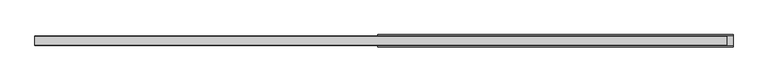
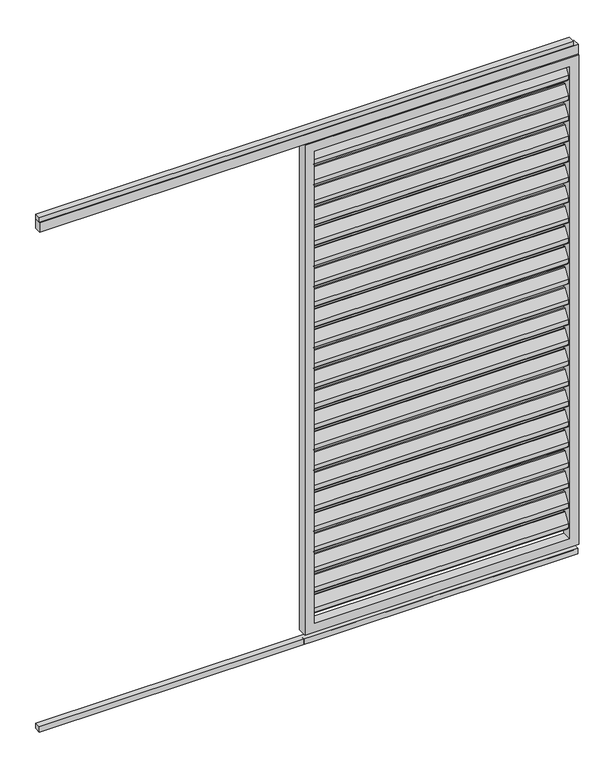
"""IFC4 building model written with IfcOpenShell, lengths in millimetres: proxy geometry, Renson_Algarve_Loggia_Paro_Aluminium : Renson_Algarve_Loggia_Paro_Aluminium."""

from ifc_helpers import new_model, si_unit, point, frame, frame_2d, origin, origin_with_axes, place, context, project, spatial, polyline, circle_curve, trimmed, segment, composite_curve, outline, extrude, source, transform, mapped, element, save


def generic_models_12cfa856(model_context):
    return source(origin(), model_context, "Body", "SweptSolid", [
        extrude(outline(composite_curve([segment(trimmed(circle_curve(frame_2d((12.6675921, 2162.6587719)), 3.0), [point((10.1515804, 2164.292689))], [point((15.6675921, 2162.6587719))], False, "CARTESIAN"), True, "CONTINUOUS"), segment(polyline([(15.6675921, 2162.6587719), (15.6675921, 2144.2979873)]), True, "CONTINUOUS"), segment(trimmed(circle_curve(frame_2d((12.6675921, 2144.2979873)), 3.0), [point((15.6675921, 2144.2979873))], [point((15.1836038, 2142.6640702))], False, "CARTESIAN"), True, "CONTINUOUS"), segment(polyline([(15.1836038, 2142.6640702), (-8.8163962, 2105.707311)]), True, "CONTINUOUS"), segment(trimmed(circle_curve(frame_2d((-11.3324079, 2107.3412281)), 3.0), [point((-8.8163962, 2105.707311))], [point((-14.3324079, 2107.3412281))], False, "CARTESIAN"), True, "CONTINUOUS"), segment(polyline([(-14.3324079, 2107.3412281), (-14.3324079, 2126.5906532), (10.1515804, 2164.292689)]), True, "CONTINUOUS")], self_intersect=False)), frame((-532.5, 0.0, 0.0), z_axis=(1.0, 0.0, 0.0), x_axis=(0.0, 1.0, 0.0)), (0.0, 0.0, 1.0), 1065.0),
        extrude(outline(composite_curve([segment(trimmed(circle_curve(frame_2d((12.6675921, 2072.6587719)), 3.0), [point((10.1515804, 2074.292689))], [point((15.6675921, 2072.6587719))], False, "CARTESIAN"), True, "CONTINUOUS"), segment(polyline([(15.6675921, 2072.6587719), (15.6675921, 2054.2979873)]), True, "CONTINUOUS"), segment(trimmed(circle_curve(frame_2d((12.6675921, 2054.2979873)), 3.0), [point((15.6675921, 2054.2979873))], [point((15.1836038, 2052.6640702))], False, "CARTESIAN"), True, "CONTINUOUS"), segment(polyline([(15.1836038, 2052.6640702), (-8.8163962, 2015.707311)]), True, "CONTINUOUS"), segment(trimmed(circle_curve(frame_2d((-11.3324079, 2017.3412281)), 3.0), [point((-8.8163962, 2015.707311))], [point((-14.3324079, 2017.3412281))], False, "CARTESIAN"), True, "CONTINUOUS"), segment(polyline([(-14.3324079, 2017.3412281), (-14.3324079, 2036.5906532), (10.1515804, 2074.292689)]), True, "CONTINUOUS")], self_intersect=False)), frame((-532.5, 0.0, 0.0), z_axis=(1.0, 0.0, 0.0), x_axis=(0.0, 1.0, 0.0)), (0.0, 0.0, 1.0), 1065.0),
        extrude(outline(composite_curve([segment(trimmed(circle_curve(frame_2d((12.6675921, 1982.6587719)), 3.0), [point((10.1515804, 1984.292689))], [point((15.6675921, 1982.6587719))], False, "CARTESIAN"), True, "CONTINUOUS"), segment(polyline([(15.6675921, 1982.6587719), (15.6675921, 1964.2979873)]), True, "CONTINUOUS"), segment(trimmed(circle_curve(frame_2d((12.6675921, 1964.2979873)), 3.0), [point((15.6675921, 1964.2979873))], [point((15.1836038, 1962.6640702))], False, "CARTESIAN"), True, "CONTINUOUS"), segment(polyline([(15.1836038, 1962.6640702), (-8.8163962, 1925.707311)]), True, "CONTINUOUS"), segment(trimmed(circle_curve(frame_2d((-11.3324079, 1927.3412281)), 3.0), [point((-8.8163962, 1925.707311))], [point((-14.3324079, 1927.3412281))], False, "CARTESIAN"), True, "CONTINUOUS"), segment(polyline([(-14.3324079, 1927.3412281), (-14.3324079, 1946.5906532), (10.1515804, 1984.292689)]), True, "CONTINUOUS")], self_intersect=False)), frame((-532.5, 0.0, 0.0), z_axis=(1.0, 0.0, 0.0), x_axis=(0.0, 1.0, 0.0)), (0.0, 0.0, 1.0), 1065.0),
        extrude(outline(composite_curve([segment(trimmed(circle_curve(frame_2d((12.6675921, 1892.6587719)), 3.0), [point((10.1515804, 1894.292689))], [point((15.6675921, 1892.6587719))], False, "CARTESIAN"), True, "CONTINUOUS"), segment(polyline([(15.6675921, 1892.6587719), (15.6675921, 1874.2979873)]), True, "CONTINUOUS"), segment(trimmed(circle_curve(frame_2d((12.6675921, 1874.2979873)), 3.0), [point((15.6675921, 1874.2979873))], [point((15.1836038, 1872.6640702))], False, "CARTESIAN"), True, "CONTINUOUS"), segment(polyline([(15.1836038, 1872.6640702), (-8.8163962, 1835.707311)]), True, "CONTINUOUS"), segment(trimmed(circle_curve(frame_2d((-11.3324079, 1837.3412281)), 3.0), [point((-8.8163962, 1835.707311))], [point((-14.3324079, 1837.3412281))], False, "CARTESIAN"), True, "CONTINUOUS"), segment(polyline([(-14.3324079, 1837.3412281), (-14.3324079, 1856.5906532), (10.1515804, 1894.292689)]), True, "CONTINUOUS")], self_intersect=False)), frame((-532.5, 0.0, 0.0), z_axis=(1.0, 0.0, 0.0), x_axis=(0.0, 1.0, 0.0)), (0.0, 0.0, 1.0), 1065.0),
        extrude(outline(composite_curve([segment(trimmed(circle_curve(frame_2d((12.6675921, 1802.6587719)), 3.0), [point((10.1515804, 1804.292689))], [point((15.6675921, 1802.6587719))], False, "CARTESIAN"), True, "CONTINUOUS"), segment(polyline([(15.6675921, 1802.6587719), (15.6675921, 1784.2979873)]), True, "CONTINUOUS"), segment(trimmed(circle_curve(frame_2d((12.6675921, 1784.2979873)), 3.0), [point((15.6675921, 1784.2979873))], [point((15.1836038, 1782.6640702))], False, "CARTESIAN"), True, "CONTINUOUS"), segment(polyline([(15.1836038, 1782.6640702), (-8.8163962, 1745.707311)]), True, "CONTINUOUS"), segment(trimmed(circle_curve(frame_2d((-11.3324079, 1747.3412281)), 3.0), [point((-8.8163962, 1745.707311))], [point((-14.3324079, 1747.3412281))], False, "CARTESIAN"), True, "CONTINUOUS"), segment(polyline([(-14.3324079, 1747.3412281), (-14.3324079, 1766.5906532), (10.1515804, 1804.292689)]), True, "CONTINUOUS")], self_intersect=False)), frame((-532.5, 0.0, 0.0), z_axis=(1.0, 0.0, 0.0), x_axis=(0.0, 1.0, 0.0)), (0.0, 0.0, 1.0), 1065.0),
        extrude(outline(composite_curve([segment(trimmed(circle_curve(frame_2d((12.6675921, 1712.6587719)), 3.0), [point((10.1515804, 1714.292689))], [point((15.6675921, 1712.6587719))], False, "CARTESIAN"), True, "CONTINUOUS"), segment(polyline([(15.6675921, 1712.6587719), (15.6675921, 1694.2979873)]), True, "CONTINUOUS"), segment(trimmed(circle_curve(frame_2d((12.6675921, 1694.2979873)), 3.0), [point((15.6675921, 1694.2979873))], [point((15.1836038, 1692.6640702))], False, "CARTESIAN"), True, "CONTINUOUS"), segment(polyline([(15.1836038, 1692.6640702), (-8.8163962, 1655.707311)]), True, "CONTINUOUS"), segment(trimmed(circle_curve(frame_2d((-11.3324079, 1657.3412281)), 3.0), [point((-8.8163962, 1655.707311))], [point((-14.3324079, 1657.3412281))], False, "CARTESIAN"), True, "CONTINUOUS"), segment(polyline([(-14.3324079, 1657.3412281), (-14.3324079, 1676.5906532), (10.1515804, 1714.292689)]), True, "CONTINUOUS")], self_intersect=False)), frame((-532.5, 0.0, 0.0), z_axis=(1.0, 0.0, 0.0), x_axis=(0.0, 1.0, 0.0)), (0.0, 0.0, 1.0), 1065.0),
        extrude(outline(composite_curve([segment(trimmed(circle_curve(frame_2d((12.6675921, 1622.6587719)), 3.0), [point((10.1515804, 1624.292689))], [point((15.6675921, 1622.6587719))], False, "CARTESIAN"), True, "CONTINUOUS"), segment(polyline([(15.6675921, 1622.6587719), (15.6675921, 1604.2979873)]), True, "CONTINUOUS"), segment(trimmed(circle_curve(frame_2d((12.6675921, 1604.2979873)), 3.0), [point((15.6675921, 1604.2979873))], [point((15.1836038, 1602.6640702))], False, "CARTESIAN"), True, "CONTINUOUS"), segment(polyline([(15.1836038, 1602.6640702), (-8.8163962, 1565.707311)]), True, "CONTINUOUS"), segment(trimmed(circle_curve(frame_2d((-11.3324079, 1567.3412281)), 3.0), [point((-8.8163962, 1565.707311))], [point((-14.3324079, 1567.3412281))], False, "CARTESIAN"), True, "CONTINUOUS"), segment(polyline([(-14.3324079, 1567.3412281), (-14.3324079, 1586.5906532), (10.1515804, 1624.292689)]), True, "CONTINUOUS")], self_intersect=False)), frame((-532.5, 0.0, 0.0), z_axis=(1.0, 0.0, 0.0), x_axis=(0.0, 1.0, 0.0)), (0.0, 0.0, 1.0), 1065.0),
        extrude(outline(composite_curve([segment(trimmed(circle_curve(frame_2d((12.6675921, 1532.6587719)), 3.0), [point((10.1515804, 1534.292689))], [point((15.6675921, 1532.6587719))], False, "CARTESIAN"), True, "CONTINUOUS"), segment(polyline([(15.6675921, 1532.6587719), (15.6675921, 1514.2979873)]), True, "CONTINUOUS"), segment(trimmed(circle_curve(frame_2d((12.6675921, 1514.2979873)), 3.0), [point((15.6675921, 1514.2979873))], [point((15.1836038, 1512.6640702))], False, "CARTESIAN"), True, "CONTINUOUS"), segment(polyline([(15.1836038, 1512.6640702), (-8.8163962, 1475.707311)]), True, "CONTINUOUS"), segment(trimmed(circle_curve(frame_2d((-11.3324079, 1477.3412281)), 3.0), [point((-8.8163962, 1475.707311))], [point((-14.3324079, 1477.3412281))], False, "CARTESIAN"), True, "CONTINUOUS"), segment(polyline([(-14.3324079, 1477.3412281), (-14.3324079, 1496.5906532), (10.1515804, 1534.292689)]), True, "CONTINUOUS")], self_intersect=False)), frame((-532.5, 0.0, 0.0), z_axis=(1.0, 0.0, 0.0), x_axis=(0.0, 1.0, 0.0)), (0.0, 0.0, 1.0), 1065.0),
        extrude(outline(composite_curve([segment(trimmed(circle_curve(frame_2d((12.6675921, 1442.6587719)), 3.0), [point((10.1515804, 1444.292689))], [point((15.6675921, 1442.6587719))], False, "CARTESIAN"), True, "CONTINUOUS"), segment(polyline([(15.6675921, 1442.6587719), (15.6675921, 1424.2979873)]), True, "CONTINUOUS"), segment(trimmed(circle_curve(frame_2d((12.6675921, 1424.2979873)), 3.0), [point((15.6675921, 1424.2979873))], [point((15.1836038, 1422.6640702))], False, "CARTESIAN"), True, "CONTINUOUS"), segment(polyline([(15.1836038, 1422.6640702), (-8.8163962, 1385.707311)]), True, "CONTINUOUS"), segment(trimmed(circle_curve(frame_2d((-11.3324079, 1387.3412281)), 3.0), [point((-8.8163962, 1385.707311))], [point((-14.3324079, 1387.3412281))], False, "CARTESIAN"), True, "CONTINUOUS"), segment(polyline([(-14.3324079, 1387.3412281), (-14.3324079, 1406.5906532), (10.1515804, 1444.292689)]), True, "CONTINUOUS")], self_intersect=False)), frame((-532.5, 0.0, 0.0), z_axis=(1.0, 0.0, 0.0), x_axis=(0.0, 1.0, 0.0)), (0.0, 0.0, 1.0), 1065.0),
        extrude(outline(composite_curve([segment(trimmed(circle_curve(frame_2d((12.6675921, 1352.6587719)), 3.0), [point((10.1515804, 1354.292689))], [point((15.6675921, 1352.6587719))], False, "CARTESIAN"), True, "CONTINUOUS"), segment(polyline([(15.6675921, 1352.6587719), (15.6675921, 1334.2979873)]), True, "CONTINUOUS"), segment(trimmed(circle_curve(frame_2d((12.6675921, 1334.2979873)), 3.0), [point((15.6675921, 1334.2979873))], [point((15.1836038, 1332.6640702))], False, "CARTESIAN"), True, "CONTINUOUS"), segment(polyline([(15.1836038, 1332.6640702), (-8.8163962, 1295.707311)]), True, "CONTINUOUS"), segment(trimmed(circle_curve(frame_2d((-11.3324079, 1297.3412281)), 3.0), [point((-8.8163962, 1295.707311))], [point((-14.3324079, 1297.3412281))], False, "CARTESIAN"), True, "CONTINUOUS"), segment(polyline([(-14.3324079, 1297.3412281), (-14.3324079, 1316.5906532), (10.1515804, 1354.292689)]), True, "CONTINUOUS")], self_intersect=False)), frame((-532.5, 0.0, 0.0), z_axis=(1.0, 0.0, 0.0), x_axis=(0.0, 1.0, 0.0)), (0.0, 0.0, 1.0), 1065.0),
        extrude(outline(composite_curve([segment(trimmed(circle_curve(frame_2d((12.6675921, 1262.6587719)), 3.0), [point((10.1515804, 1264.292689))], [point((15.6675921, 1262.6587719))], False, "CARTESIAN"), True, "CONTINUOUS"), segment(polyline([(15.6675921, 1262.6587719), (15.6675921, 1244.2979873)]), True, "CONTINUOUS"), segment(trimmed(circle_curve(frame_2d((12.6675921, 1244.2979873)), 3.0), [point((15.6675921, 1244.2979873))], [point((15.1836038, 1242.6640702))], False, "CARTESIAN"), True, "CONTINUOUS"), segment(polyline([(15.1836038, 1242.6640702), (-8.8163962, 1205.707311)]), True, "CONTINUOUS"), segment(trimmed(circle_curve(frame_2d((-11.3324079, 1207.3412281)), 3.0), [point((-8.8163962, 1205.707311))], [point((-14.3324079, 1207.3412281))], False, "CARTESIAN"), True, "CONTINUOUS"), segment(polyline([(-14.3324079, 1207.3412281), (-14.3324079, 1226.5906532), (10.1515804, 1264.292689)]), True, "CONTINUOUS")], self_intersect=False)), frame((-532.5, 0.0, 0.0), z_axis=(1.0, 0.0, 0.0), x_axis=(0.0, 1.0, 0.0)), (0.0, 0.0, 1.0), 1065.0),
        extrude(outline(composite_curve([segment(trimmed(circle_curve(frame_2d((12.6675921, 1172.6587719)), 3.0), [point((10.1515804, 1174.292689))], [point((15.6675921, 1172.6587719))], False, "CARTESIAN"), True, "CONTINUOUS"), segment(polyline([(15.6675921, 1172.6587719), (15.6675921, 1154.2979873)]), True, "CONTINUOUS"), segment(trimmed(circle_curve(frame_2d((12.6675921, 1154.2979873)), 3.0), [point((15.6675921, 1154.2979873))], [point((15.1836038, 1152.6640702))], False, "CARTESIAN"), True, "CONTINUOUS"), segment(polyline([(15.1836038, 1152.6640702), (-8.8163962, 1115.707311)]), True, "CONTINUOUS"), segment(trimmed(circle_curve(frame_2d((-11.3324079, 1117.3412281)), 3.0), [point((-8.8163962, 1115.707311))], [point((-14.3324079, 1117.3412281))], False, "CARTESIAN"), True, "CONTINUOUS"), segment(polyline([(-14.3324079, 1117.3412281), (-14.3324079, 1136.5906532), (10.1515804, 1174.292689)]), True, "CONTINUOUS")], self_intersect=False)), frame((-532.5, 0.0, 0.0), z_axis=(1.0, 0.0, 0.0), x_axis=(0.0, 1.0, 0.0)), (0.0, 0.0, 1.0), 1065.0),
        extrude(outline(composite_curve([segment(trimmed(circle_curve(frame_2d((12.6675921, 1082.6587719)), 3.0), [point((10.1515804, 1084.292689))], [point((15.6675921, 1082.6587719))], False, "CARTESIAN"), True, "CONTINUOUS"), segment(polyline([(15.6675921, 1082.6587719), (15.6675921, 1064.2979873)]), True, "CONTINUOUS"), segment(trimmed(circle_curve(frame_2d((12.6675921, 1064.2979873)), 3.0), [point((15.6675921, 1064.2979873))], [point((15.1836038, 1062.6640702))], False, "CARTESIAN"), True, "CONTINUOUS"), segment(polyline([(15.1836038, 1062.6640702), (-8.8163962, 1025.707311)]), True, "CONTINUOUS"), segment(trimmed(circle_curve(frame_2d((-11.3324079, 1027.3412281)), 3.0), [point((-8.8163962, 1025.707311))], [point((-14.3324079, 1027.3412281))], False, "CARTESIAN"), True, "CONTINUOUS"), segment(polyline([(-14.3324079, 1027.3412281), (-14.3324079, 1046.5906532), (10.1515804, 1084.292689)]), True, "CONTINUOUS")], self_intersect=False)), frame((-532.5, 0.0, 0.0), z_axis=(1.0, 0.0, 0.0), x_axis=(0.0, 1.0, 0.0)), (0.0, 0.0, 1.0), 1065.0),
        extrude(outline(composite_curve([segment(trimmed(circle_curve(frame_2d((12.6675921, 992.6587719)), 3.0), [point((10.1515804, 994.292689))], [point((15.6675921, 992.6587719))], False, "CARTESIAN"), True, "CONTINUOUS"), segment(polyline([(15.6675921, 992.6587719), (15.6675921, 974.2979873)]), True, "CONTINUOUS"), segment(trimmed(circle_curve(frame_2d((12.6675921, 974.2979873)), 3.0), [point((15.6675921, 974.2979873))], [point((15.1836038, 972.6640702))], False, "CARTESIAN"), True, "CONTINUOUS"), segment(polyline([(15.1836038, 972.6640702), (-8.8163962, 935.707311)]), True, "CONTINUOUS"), segment(trimmed(circle_curve(frame_2d((-11.3324079, 937.3412281)), 3.0), [point((-8.8163962, 935.707311))], [point((-14.3324079, 937.3412281))], False, "CARTESIAN"), True, "CONTINUOUS"), segment(polyline([(-14.3324079, 937.3412281), (-14.3324079, 956.5906532), (10.1515804, 994.292689)]), True, "CONTINUOUS")], self_intersect=False)), frame((-532.5, 0.0, 0.0), z_axis=(1.0, 0.0, 0.0), x_axis=(0.0, 1.0, 0.0)), (0.0, 0.0, 1.0), 1065.0),
        extrude(outline(composite_curve([segment(trimmed(circle_curve(frame_2d((12.6675921, 902.6587719)), 3.0), [point((10.1515804, 904.292689))], [point((15.6675921, 902.6587719))], False, "CARTESIAN"), True, "CONTINUOUS"), segment(polyline([(15.6675921, 902.6587719), (15.6675921, 884.2979873)]), True, "CONTINUOUS"), segment(trimmed(circle_curve(frame_2d((12.6675921, 884.2979873)), 3.0), [point((15.6675921, 884.2979873))], [point((15.1836038, 882.6640702))], False, "CARTESIAN"), True, "CONTINUOUS"), segment(polyline([(15.1836038, 882.6640702), (-8.8163962, 845.707311)]), True, "CONTINUOUS"), segment(trimmed(circle_curve(frame_2d((-11.3324079, 847.3412281)), 3.0), [point((-8.8163962, 845.707311))], [point((-14.3324079, 847.3412281))], False, "CARTESIAN"), True, "CONTINUOUS"), segment(polyline([(-14.3324079, 847.3412281), (-14.3324079, 866.5906532), (10.1515804, 904.292689)]), True, "CONTINUOUS")], self_intersect=False)), frame((-532.5, 0.0, 0.0), z_axis=(1.0, 0.0, 0.0), x_axis=(0.0, 1.0, 0.0)), (0.0, 0.0, 1.0), 1065.0),
        extrude(outline(composite_curve([segment(trimmed(circle_curve(frame_2d((12.6675921, 812.6587719)), 3.0), [point((10.1515804, 814.292689))], [point((15.6675921, 812.6587719))], False, "CARTESIAN"), True, "CONTINUOUS"), segment(polyline([(15.6675921, 812.6587719), (15.6675921, 794.2979873)]), True, "CONTINUOUS"), segment(trimmed(circle_curve(frame_2d((12.6675921, 794.2979873)), 3.0), [point((15.6675921, 794.2979873))], [point((15.1836038, 792.6640702))], False, "CARTESIAN"), True, "CONTINUOUS"), segment(polyline([(15.1836038, 792.6640702), (-8.8163962, 755.707311)]), True, "CONTINUOUS"), segment(trimmed(circle_curve(frame_2d((-11.3324079, 757.3412281)), 3.0), [point((-8.8163962, 755.707311))], [point((-14.3324079, 757.3412281))], False, "CARTESIAN"), True, "CONTINUOUS"), segment(polyline([(-14.3324079, 757.3412281), (-14.3324079, 776.5906532), (10.1515804, 814.292689)]), True, "CONTINUOUS")], self_intersect=False)), frame((-532.5, 0.0, 0.0), z_axis=(1.0, 0.0, 0.0), x_axis=(0.0, 1.0, 0.0)), (0.0, 0.0, 1.0), 1065.0),
        extrude(outline(composite_curve([segment(trimmed(circle_curve(frame_2d((12.6675921, 722.6587719)), 3.0), [point((10.1515804, 724.292689))], [point((15.6675921, 722.6587719))], False, "CARTESIAN"), True, "CONTINUOUS"), segment(polyline([(15.6675921, 722.6587719), (15.6675921, 704.2979873)]), True, "CONTINUOUS"), segment(trimmed(circle_curve(frame_2d((12.6675921, 704.2979873)), 3.0), [point((15.6675921, 704.2979873))], [point((15.1836038, 702.6640702))], False, "CARTESIAN"), True, "CONTINUOUS"), segment(polyline([(15.1836038, 702.6640702), (-8.8163962, 665.707311)]), True, "CONTINUOUS"), segment(trimmed(circle_curve(frame_2d((-11.3324079, 667.3412281)), 3.0), [point((-8.8163962, 665.707311))], [point((-14.3324079, 667.3412281))], False, "CARTESIAN"), True, "CONTINUOUS"), segment(polyline([(-14.3324079, 667.3412281), (-14.3324079, 686.5906532), (10.1515804, 724.292689)]), True, "CONTINUOUS")], self_intersect=False)), frame((-532.5, 0.0, 0.0), z_axis=(1.0, 0.0, 0.0), x_axis=(0.0, 1.0, 0.0)), (0.0, 0.0, 1.0), 1065.0),
        extrude(outline(composite_curve([segment(trimmed(circle_curve(frame_2d((12.6675921, 632.6587719)), 3.0), [point((10.1515804, 634.292689))], [point((15.6675921, 632.6587719))], False, "CARTESIAN"), True, "CONTINUOUS"), segment(polyline([(15.6675921, 632.6587719), (15.6675921, 614.2979873)]), True, "CONTINUOUS"), segment(trimmed(circle_curve(frame_2d((12.6675921, 614.2979873)), 3.0), [point((15.6675921, 614.2979873))], [point((15.1836038, 612.6640702))], False, "CARTESIAN"), True, "CONTINUOUS"), segment(polyline([(15.1836038, 612.6640702), (-8.8163962, 575.707311)]), True, "CONTINUOUS"), segment(trimmed(circle_curve(frame_2d((-11.3324079, 577.3412281)), 3.0), [point((-8.8163962, 575.707311))], [point((-14.3324079, 577.3412281))], False, "CARTESIAN"), True, "CONTINUOUS"), segment(polyline([(-14.3324079, 577.3412281), (-14.3324079, 596.5906532), (10.1515804, 634.292689)]), True, "CONTINUOUS")], self_intersect=False)), frame((-532.5, 0.0, 0.0), z_axis=(1.0, 0.0, 0.0), x_axis=(0.0, 1.0, 0.0)), (0.0, 0.0, 1.0), 1065.0),
        extrude(outline(composite_curve([segment(trimmed(circle_curve(frame_2d((12.6675921, 542.6587719)), 3.0), [point((10.1515804, 544.292689))], [point((15.6675921, 542.6587719))], False, "CARTESIAN"), True, "CONTINUOUS"), segment(polyline([(15.6675921, 542.6587719), (15.6675921, 524.2979873)]), True, "CONTINUOUS"), segment(trimmed(circle_curve(frame_2d((12.6675921, 524.2979873)), 3.0), [point((15.6675921, 524.2979873))], [point((15.1836038, 522.6640702))], False, "CARTESIAN"), True, "CONTINUOUS"), segment(polyline([(15.1836038, 522.6640702), (-8.8163962, 485.707311)]), True, "CONTINUOUS"), segment(trimmed(circle_curve(frame_2d((-11.3324079, 487.3412281)), 3.0), [point((-8.8163962, 485.707311))], [point((-14.3324079, 487.3412281))], False, "CARTESIAN"), True, "CONTINUOUS"), segment(polyline([(-14.3324079, 487.3412281), (-14.3324079, 506.5906532), (10.1515804, 544.292689)]), True, "CONTINUOUS")], self_intersect=False)), frame((-532.5, 0.0, 0.0), z_axis=(1.0, 0.0, 0.0), x_axis=(0.0, 1.0, 0.0)), (0.0, 0.0, 1.0), 1065.0),
        extrude(outline(composite_curve([segment(trimmed(circle_curve(frame_2d((12.6675921, 452.6587719)), 3.0), [point((10.1515804, 454.292689))], [point((15.6675921, 452.6587719))], False, "CARTESIAN"), True, "CONTINUOUS"), segment(polyline([(15.6675921, 452.6587719), (15.6675921, 434.2979873)]), True, "CONTINUOUS"), segment(trimmed(circle_curve(frame_2d((12.6675921, 434.2979873)), 3.0), [point((15.6675921, 434.2979873))], [point((15.1836038, 432.6640702))], False, "CARTESIAN"), True, "CONTINUOUS"), segment(polyline([(15.1836038, 432.6640702), (-8.8163962, 395.707311)]), True, "CONTINUOUS"), segment(trimmed(circle_curve(frame_2d((-11.3324079, 397.3412281)), 3.0), [point((-8.8163962, 395.707311))], [point((-14.3324079, 397.3412281))], False, "CARTESIAN"), True, "CONTINUOUS"), segment(polyline([(-14.3324079, 397.3412281), (-14.3324079, 416.5906532), (10.1515804, 454.292689)]), True, "CONTINUOUS")], self_intersect=False)), frame((-532.5, 0.0, 0.0), z_axis=(1.0, 0.0, 0.0), x_axis=(0.0, 1.0, 0.0)), (0.0, 0.0, 1.0), 1065.0),
        extrude(outline(composite_curve([segment(trimmed(circle_curve(frame_2d((12.6675921, 362.6587719)), 3.0), [point((10.1515804, 364.292689))], [point((15.6675921, 362.6587719))], False, "CARTESIAN"), True, "CONTINUOUS"), segment(polyline([(15.6675921, 362.6587719), (15.6675921, 344.2979873)]), True, "CONTINUOUS"), segment(trimmed(circle_curve(frame_2d((12.6675921, 344.2979873)), 3.0), [point((15.6675921, 344.2979873))], [point((15.1836038, 342.6640702))], False, "CARTESIAN"), True, "CONTINUOUS"), segment(polyline([(15.1836038, 342.6640702), (-8.8163962, 305.707311)]), True, "CONTINUOUS"), segment(trimmed(circle_curve(frame_2d((-11.3324079, 307.3412281)), 3.0), [point((-8.8163962, 305.707311))], [point((-14.3324079, 307.3412281))], False, "CARTESIAN"), True, "CONTINUOUS"), segment(polyline([(-14.3324079, 307.3412281), (-14.3324079, 326.5906532), (10.1515804, 364.292689)]), True, "CONTINUOUS")], self_intersect=False)), frame((-532.5, 0.0, 0.0), z_axis=(1.0, 0.0, 0.0), x_axis=(0.0, 1.0, 0.0)), (0.0, 0.0, 1.0), 1065.0),
        extrude(outline(composite_curve([segment(trimmed(circle_curve(frame_2d((12.6675921, 272.6587719)), 3.0), [point((10.1515804, 274.292689))], [point((15.6675921, 272.6587719))], False, "CARTESIAN"), True, "CONTINUOUS"), segment(polyline([(15.6675921, 272.6587719), (15.6675921, 254.2979873)]), True, "CONTINUOUS"), segment(trimmed(circle_curve(frame_2d((12.6675921, 254.2979873)), 3.0), [point((15.6675921, 254.2979873))], [point((15.1836038, 252.6640702))], False, "CARTESIAN"), True, "CONTINUOUS"), segment(polyline([(15.1836038, 252.6640702), (-8.8163962, 215.707311)]), True, "CONTINUOUS"), segment(trimmed(circle_curve(frame_2d((-11.3324079, 217.3412281)), 3.0), [point((-8.8163962, 215.707311))], [point((-14.3324079, 217.3412281))], False, "CARTESIAN"), True, "CONTINUOUS"), segment(polyline([(-14.3324079, 217.3412281), (-14.3324079, 236.5906532), (10.1515804, 274.292689)]), True, "CONTINUOUS")], self_intersect=False)), frame((-532.5, 0.0, 0.0), z_axis=(1.0, 0.0, 0.0), x_axis=(0.0, 1.0, 0.0)), (0.0, 0.0, 1.0), 1065.0),
        extrude(outline(composite_curve([segment(trimmed(circle_curve(frame_2d((12.6675921, 182.6587719)), 3.0), [point((10.1515804, 184.292689))], [point((15.6675921, 182.6587719))], False, "CARTESIAN"), True, "CONTINUOUS"), segment(polyline([(15.6675921, 182.6587719), (15.6675921, 164.2979873)]), True, "CONTINUOUS"), segment(trimmed(circle_curve(frame_2d((12.6675921, 164.2979873)), 3.0), [point((15.6675921, 164.2979873))], [point((15.1836038, 162.6640702))], False, "CARTESIAN"), True, "CONTINUOUS"), segment(polyline([(15.1836038, 162.6640702), (-8.8163962, 125.707311)]), True, "CONTINUOUS"), segment(trimmed(circle_curve(frame_2d((-11.3324079, 127.3412281)), 3.0), [point((-8.8163962, 125.707311))], [point((-14.3324079, 127.3412281))], False, "CARTESIAN"), True, "CONTINUOUS"), segment(polyline([(-14.3324079, 127.3412281), (-14.3324079, 146.5906532), (10.1515804, 184.292689)]), True, "CONTINUOUS")], self_intersect=False)), frame((-532.5, 0.0, 0.0), z_axis=(1.0, 0.0, 0.0), x_axis=(0.0, 1.0, 0.0)), (0.0, 0.0, 1.0), 1065.0),
        extrude(outline(polyline([(552.5, -13.0), (-1677.5, -13.0), (-1677.5, 14.0), (552.5, 14.0), (552.5, -13.0)])), frame((0.0, 0.0, 2250.0), z_axis=(0.0, 0.0, 1.0), x_axis=(1.0, 0.0, 0.0)), (0.0, 0.0, 1.0), 20.0),
        extrude(outline(polyline([(572.5, 15.0), (572.5, -15.0), (-1677.5, -15.0), (-1677.5, 15.0), (572.5, 15.0)])), frame((0.0, 0.0, 2207.7138321), z_axis=(0.0, 0.0, 1.0), x_axis=(1.0, 0.0, 0.0)), (0.0, 0.0, 1.0), 42.2861679),
        extrude(outline(polyline([(552.5, 15.0), (552.5, -15.0), (-572.5, -15.0), (-572.5, 15.0), (552.5, 15.0)])), frame((0.0, 0.0, 2207.7138321), z_axis=(0.0, 0.0, 1.0), x_axis=(1.0, 0.0, 0.0)), (0.0, 0.0, 1.0), 42.2861679),
        extrude(outline(polyline([(572.5, -13.0), (-1677.5, -13.0), (-1677.5, 14.0), (572.5, 14.0), (572.5, -13.0)])), origin_with_axes(), (0.0, 0.0, 1.0), 23.0),
        extrude(outline(polyline([(552.5, -13.0), (-572.5, -13.0), (-572.5, 14.0), (552.5, 14.0), (552.5, -13.0)])), origin_with_axes(), (0.0, 0.0, 1.0), 23.0),
        extrude(outline(polyline([(2207.7138321, -572.5), (45.0, -572.5), (45.0, 572.5), (2207.7138321, 572.5), (2207.7138321, -572.5)]), holes=[polyline([(2167.7138321, 532.5), (85.0, 532.5), (85.0, -532.5), (2167.7138321, -532.5), (2167.7138321, 532.5)])]), frame((0.0, -20.0, 0.0), z_axis=(0.0, 1.0, 0.0), x_axis=(0.0, 0.0, 1.0)), (0.0, 0.0, 1.0), 40.0),
    ])


if __name__ == "__main__":
    model = new_model("IFC4")
    model_context = context("Model", 3, world=origin())
    ifc_project = project(units=[si_unit("LENGTHUNIT", "METRE", prefix="MILLI")], contexts=[model_context])
    site = spatial("IfcSite", under=ifc_project)
    building = spatial("IfcBuilding", under=site)
    placement = place(None, origin())
    generic_models_shape = generic_models_12cfa856(model_context)
    element("IfcBuildingElementProxy", 1, Name="Renson_Algarve_Loggia_Paro_Aluminium : Renson_Algarve_Loggia_Paro_Aluminium", ObjectType="Renson_Algarve_Loggia_Paro_Aluminium : Renson_Algarve_Loggia_Paro_Aluminium", at=placement, inside=building, context=model_context, shape_type="MappedRepresentation", body=[
        mapped(generic_models_shape, transform((0.0, 0.0, 0.0), x_axis=(1.0, 0.0, 0.0), y_axis=(0.0, 1.0, 0.0), z_axis=(0.0, 0.0, 1.0))),
    ])
    save(model, "model.ifc")
